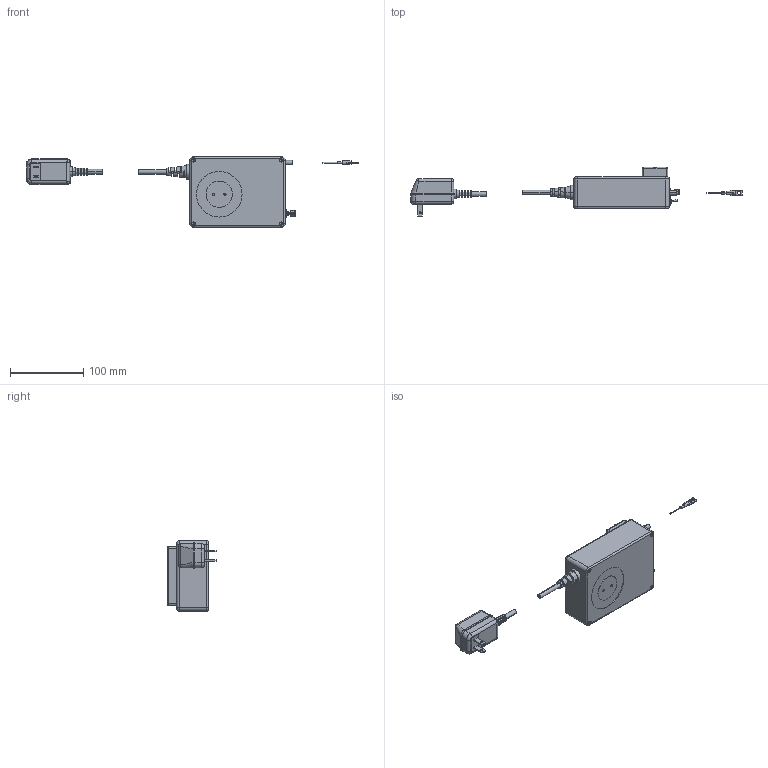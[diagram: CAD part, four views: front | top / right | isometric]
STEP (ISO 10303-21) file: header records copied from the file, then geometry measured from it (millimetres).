
FILE_DESCRIPTION (( 'STEP AP214' ), '1' );
FILE_NAME ('DMR-100B_Assem2.STEP', '2024-08-20T01:11:10', ( '' ), ( '' ), 'SwSTEP 2.0', 'SolidWorks 2023', '' );
FILE_SCHEMA (( 'AUTOMOTIVE_DESIGN' ));
Length unit declared in the file: millimetre
Products named in the file (11): Flat Head SCREW M3 X6 MM; ナット_Part3; DMR-100B_Assem1; DMR-100B_Assem2; DMR100B_Part1; DMR100B_Part6; DMR100B_Part2; DMR-100B_Assem0; プッシュボタン_Part4; DMR_ACアダプタ; トルグスイッチ_Part5
Assembly tree (20 placements, depth 4):
  DMR-100B_Assem2
    DMR-100B_Assem1
      DMR-100B_Assem0
        DMR100B_Part2
        DMR100B_Part1
        ナット_Part3  x2
        トルグスイッチ_Part5
        プッシュボタン_Part4
        Flat Head SCREW M3 X6 MM  x10
      DMR100B_Part6
    DMR_ACアダプタ
Bounding box: 452.33 x 67.4 x 96 mm (x, y, z)
Volume: 640715.8 mm3; surface area: 89878.5 mm2
Topology: 18 solids, 18 shells, 1037 faces, 2798 edges, 1862 vertices
Faces by surface type: plane 461, cylinder 422, cone 78, bspline 58, torus 12, sphere 6
Entity records: 27950 total; most frequent: CARTESIAN_POINT 6240, DIRECTION 4629, ORIENTED_EDGE 4430, EDGE_CURVE 2215, AXIS2_PLACEMENT_3D 1710, VERTEX_POINT 1456, VECTOR 1209, LINE 1209
